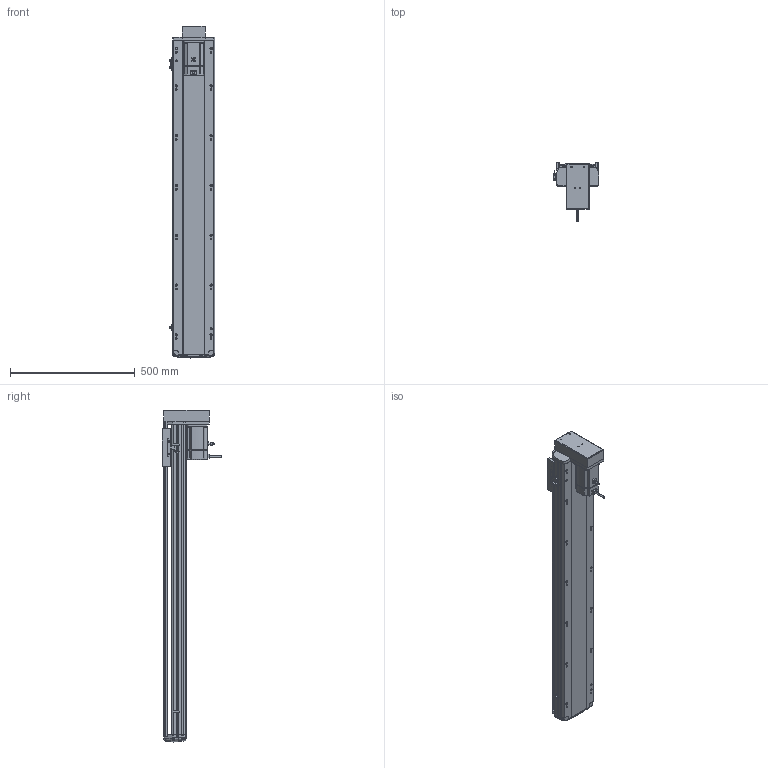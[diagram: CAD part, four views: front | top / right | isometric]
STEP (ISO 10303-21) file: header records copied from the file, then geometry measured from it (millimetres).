
FILE_DESCRIPTION (( 'STEP AP214' ), '1' );
FILE_NAME ('RTH17-XX-1050-M-M75-C4.STEP', '2025-10-24T10:27:09', ( '' ), ( '' ), 'SwSTEP 2.0', 'SolidWorks 2018', '' );
FILE_SCHEMA (( 'AUTOMOTIVE_DESIGN' ));
Length unit declared in the file: millimetre
Products named in the file (10): N_M75^RTH17-XX-XX-M-M75-C4（方程式）; N_OMRON EE-SX672 換覜ん^RTH17-XX-XX-M-M75-C4ㄗ源最宒ㄘ; N_RTH17-E-004丝杆螺母连接座^RTH17-XX-XX-M-M75-C4（方程式）; N_RTH17-GY-001P^RTH17-XX-XX-M-M75-C4（方程式）; N_RTH17-M-008-P75电机安装板下折750W^RTH17-XX-XX-M-M75-C4（方程式）; N_RTH-BL-012 感应片(外置)^RTH17-XX-XX-M-M75-C4（方程式）; N_RTH17-M-011底座^RTH17-XX-XX-M-M75-C4（方程式）; N_RTH17-M-018盖子^RTH17-XX-XX-M-M75-C4（方程式）; N_RTH17-M-007上盖^RTH17-XX-XX-M-M75-C4（方程式）; RTH17-XX-1050-M-M75-C4
Assembly tree (11 placements, depth 2):
  RTH17-XX-1050-M-M75-C4
    N_RTH17-M-011底座^RTH17-XX-XX-M-M75-C4（方程式）
    N_RTH17-M-007上盖^RTH17-XX-XX-M-M75-C4（方程式）
    N_M75^RTH17-XX-XX-M-M75-C4（方程式）
    N_OMRON EE-SX672 換覜ん^RTH17-XX-XX-M-M75-C4ㄗ源最宒ㄘ  x3
    N_RTH-BL-012 感应片(外置)^RTH17-XX-XX-M-M75-C4（方程式）
    N_RTH17-M-008-P75电机安装板下折750W^RTH17-XX-XX-M-M75-C4（方程式）
    N_RTH17-M-018盖子^RTH17-XX-XX-M-M75-C4（方程式）
    N_RTH17-E-004丝杆螺母连接座^RTH17-XX-XX-M-M75-C4（方程式）
    N_RTH17-GY-001P^RTH17-XX-XX-M-M75-C4（方程式）
Bounding box: 183.5 x 240.7 x 1333.19 mm (x, y, z)
Volume: 10623666.3 mm3; surface area: 1453341.2 mm2
Topology: 10 solids, 12 shells, 1773 faces, 4904 edges, 3176 vertices
Faces by surface type: plane 832, cylinder 527, bspline 377, cone 28, torus 9
Entity records: 52103 total; most frequent: CARTESIAN_POINT 20774, ORIENTED_EDGE 6832, DIRECTION 5674, EDGE_CURVE 3420, VERTEX_POINT 2212, AXIS2_PLACEMENT_3D 1915, LINE 1844, VECTOR 1844
